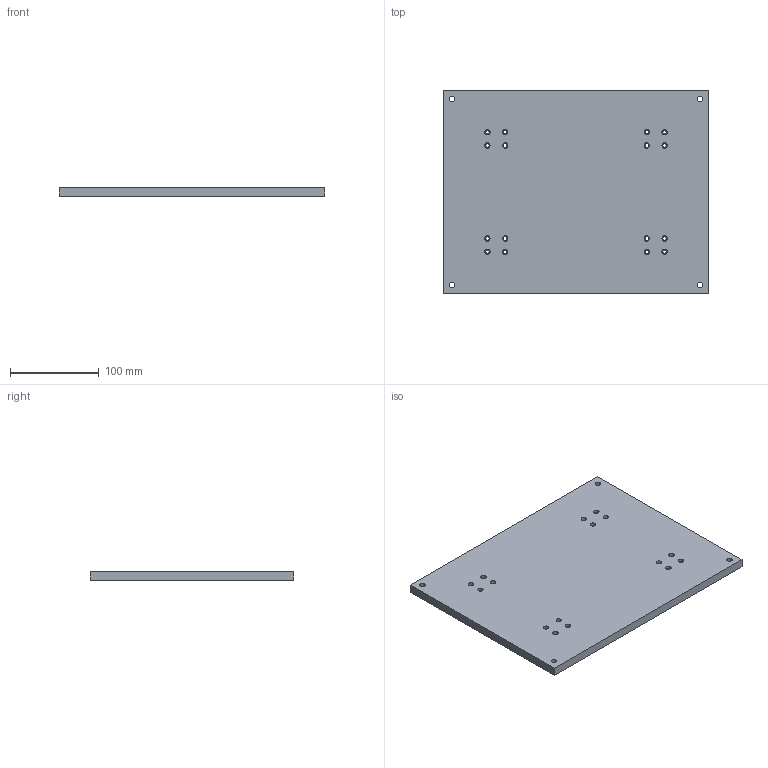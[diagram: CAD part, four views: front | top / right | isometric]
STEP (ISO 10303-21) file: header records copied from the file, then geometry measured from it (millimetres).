
FILE_DESCRIPTION(('FreeCAD Model'),'2;1');
FILE_NAME('Open CASCADE Shape Model','2025-04-18T11:40:16',(''),(''), 'Open CASCADE STEP processor 7.8','FreeCAD','Unknown');
FILE_SCHEMA(('AUTOMOTIVE_DESIGN { 1 0 10303 214 1 1 1 1 }'));
Length unit declared in the file: millimetre
Products named in the file (1): Bed
Bounding box: 300 x 230 x 10 mm (x, y, z)
Volume: 685898.9 mm3; surface area: 151116.3 mm2
Topology: 1 solids, 1 shells, 58 faces, 120 edges, 80 vertices
Faces by surface type: cylinder 36, plane 22
Full cylindrical faces by diameter (mm): 4 x16, 6 x4, 6.1 x16
Entity records: 3298 total; most frequent: CARTESIAN_POINT 619, DIRECTION 530, ORIENTED_EDGE 240, PCURVE 240, DEFINITIONAL_REPRESENTATION 240, LINE 216, VECTOR 216, AXIS2_PLACEMENT_3D 131
